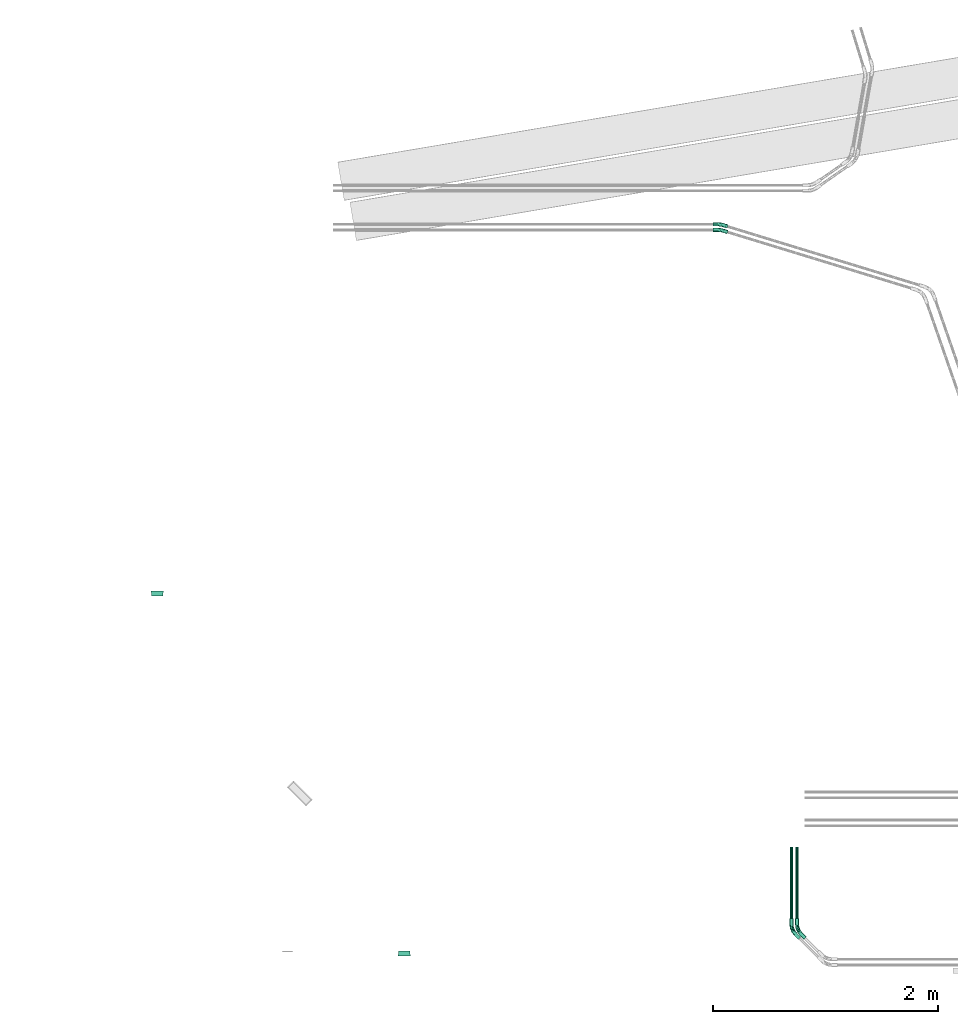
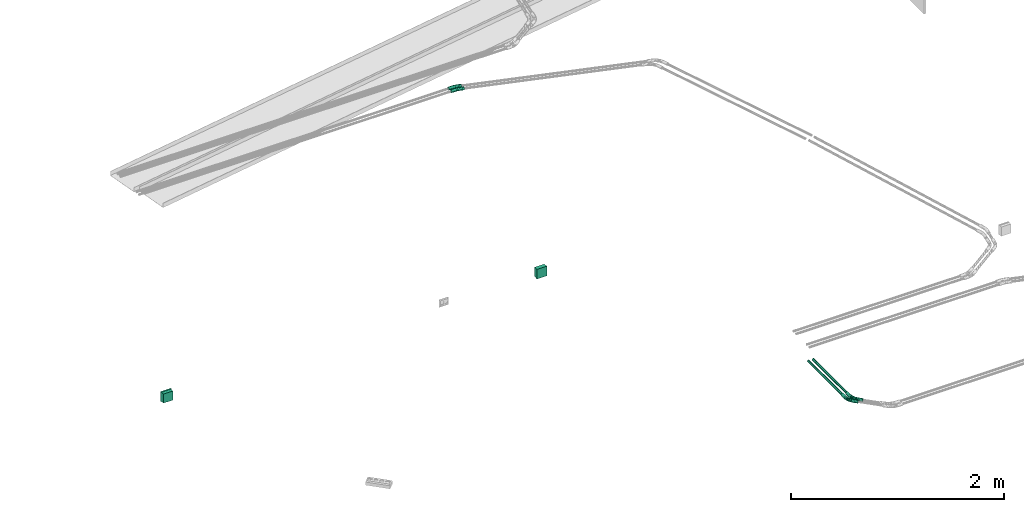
# One storey, part 10 of 22: 6 flow fittings, 2 flow segments.
"""IFC2X3 building model written with IfcOpenShell, lengths in millimetres."""

from ifc_helpers import new_model, entity, si_unit, converted_unit, derived_unit, direction, frame, origin_with_axes, origin_2d_with_axis, place, context, subcontext, project, spatial, hollow_circle, extrude, open_shell, surface_model, source, transform, mapped, type_object, element, save


model = new_model("IFC2X3")

# Units and contexts
model_context = context("Model", 3, precision=0.01, world=frame((0.0, 4.29681676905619e-09, 0.0)), true_north=direction((4.01073788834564e-13, 1.0)))
plan_context = context("Plan", 3, precision=0.01, world=frame((0.0, 4.29681676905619e-09, 0.0)), true_north=direction((4.01073788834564e-13, 1.0)))
body_context = subcontext(model_context, "Body", "Model", "MODEL_VIEW")
ifc_project = project(units=[converted_unit("PLANEANGLEUNIT", "DEGREE", entity("IfcPositiveLengthMeasure", 0.0174532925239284), si_unit("PLANEANGLEUNIT", "RADIAN"), dimensions=[0, 0, 0, 0, 0, 0, 0]), si_unit("AREAUNIT", "SQUARE_METRE"), si_unit("LENGTHUNIT", "METRE", prefix="MILLI"), si_unit("MASSUNIT", "GRAM", prefix="KILO"), si_unit("POWERUNIT", "WATT"), si_unit("PRESSUREUNIT", "PASCAL", prefix="KILO"), si_unit("FORCEUNIT", "NEWTON", prefix="KILO"), si_unit("ELECTRICVOLTAGEUNIT", "VOLT"), si_unit("ELECTRICCURRENTUNIT", "AMPERE"), si_unit("THERMODYNAMICTEMPERATUREUNIT", "DEGREE_CELSIUS"), si_unit("TIMEUNIT", "SECOND"), si_unit("VOLUMEUNIT", "CUBIC_METRE"), derived_unit("LINEARVELOCITYUNIT", [(si_unit("LENGTHUNIT", "METRE"), 1), (si_unit("TIMEUNIT", "SECOND"), -1)]), derived_unit("VOLUMETRICFLOWRATEUNIT", [(si_unit("VOLUMEUNIT", "CUBIC_METRE"), 1), (si_unit("TIMEUNIT", "SECOND"), -1)]), derived_unit("THERMALTRANSMITTANCEUNIT", [(si_unit("POWERUNIT", "WATT"), 1), (si_unit("THERMODYNAMICTEMPERATUREUNIT", "KELVIN"), -1), (si_unit("AREAUNIT", "SQUARE_METRE"), -1)]), derived_unit("SOUNDPRESSUREUNIT", [(si_unit("PRESSUREUNIT", "PASCAL"), 1)])], contexts=[model_context, plan_context])

# Site, building, storey
site_placement = place(None, frame((0.0, -4.29681676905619e-09, 0.0), z_axis=(0.0, 0.0, 1.0), x_axis=(1.0, 0.0, 0.0)))
site = spatial("IfcSite", under=ifc_project, at=site_placement, Name="ENGM", CompositionType="ELEMENT")
building_placement = place(site_placement, frame((0.0, 4.29681676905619e-09, 0.0), z_axis=(0.0, 0.0, 1.0), x_axis=(1.0, 0.0, 0.0)))
building = spatial("IfcBuilding", under=site, at=building_placement, Name="TI", CompositionType="ELEMENT")
storey_placement = place(building_placement, frame((0.0, 0.0, 210900.0), z_axis=(0.0, 0.0, 1.0), x_axis=(1.0, 0.0, 0.0)))
storey = spatial("IfcBuildingStorey", under=building, at=storey_placement, Name="Nivå F", CompositionType="ELEMENT", Elevation=210900.0)

# Flow fittings
cable_carrier_fitting_type = type_object("IfcCableCarrierFittingType", Name="Trekkerør, glatt bend", PredefinedType="BEND")
shared_shape_1 = source(origin_with_axes(), body_context, "Body", "SurfaceModel", [
    surface_model("IfcShellBasedSurfaceModel", [(-101.90646, 8.46055, -14.6541), (-101.90646, 4.3795, -16.34452), (-101.90646, 0.0, -16.92109), (-101.90646, -4.3795, -16.34452), (-101.90646, -8.46055, -14.6541), (-101.90646, -14.6541, -8.46055), (-101.90646, 16.92109, 0.0), (-101.90646, -11.96502, -11.96502), (-101.90646, -11.96502, 11.96502), (-101.90646, 14.6541, -8.46055), (-101.90646, 11.96502, -11.96502), (-101.90646, 16.34452, -4.3795), (-101.90646, -16.34452, -4.3795), (-101.90646, -16.92109, 0.0), (-101.90646, -16.34452, 4.3795), (-101.90646, -14.6541, 8.46055), (-101.90646, 0.0, 16.92109), (-101.90646, -8.46055, 14.6541), (-101.90646, -4.3795, 16.34452), (-101.90646, 14.6541, 8.46055), (-101.90646, 8.46055, 14.6541), (-101.90646, 11.96502, 11.96502), (-101.90646, 16.34452, 4.3795), (-101.90646, 4.3795, 16.34452), (-54.58849, 16.34452, 4.3795), (-54.58849, 16.92109, 0.0), (-54.58849, 14.6541, 8.46055), (-54.58849, 8.46055, 14.6541), (-54.58849, 11.96502, 11.96502), (-54.58849, 4.3795, 16.34452), (-54.58849, 0.0, 16.92109), (-54.58849, -8.46055, 14.6541), (-54.58849, -4.3795, 16.34452), (-54.58849, -11.96502, 11.96502), (-54.58849, -16.34452, 4.3795), (-54.58849, -14.6541, 8.46055), (-54.58849, -16.92109, 0.0), (-54.58849, -16.34452, -4.3795), (-54.58849, -14.6541, -8.46055), (-54.58849, -8.46055, -14.6541), (-54.58849, -11.96502, -11.96502), (-54.58849, -4.3795, -16.34452), (-54.58849, 0.0, -16.92109), (-54.58849, 8.46055, -14.6541), (-54.58849, 4.3795, -16.34452), (-54.58849, 11.96502, -11.96502), (-54.58849, 16.34452, -4.3795), (-54.58849, 14.6541, -8.46055), (-16.09967, 11.85394, 0.0), (-13.36235, 10.76027, 3.27049), (10.9245, 1.31078, 3.47544), (22.26214, -21.90343, 16.76352), (38.59989, -38.59989, 16.92109), (41.69667, -35.50312, 16.34452), (-19.66365, 2.12805, 15.57779), (-29.58477, 8.16493, 13.36262), (-20.60685, 9.47816, 10.19127), (-29.40446, -19.36118, 3.4046), (-10.25807, -24.76518, 5.65746), (-34.07223, -17.39409, 6.62821), (-31.22977, 0.25365, 16.76352), (-3.22837, -7.79397, 16.74683), (17.47707, -29.1678, 15.66764), (32.61738, -44.5824, 14.6541), (35.50312, -41.69667, 16.34452), (5.09993, -25.84703, 13.50914), (-25.92736, -13.63005, 13.4985), (-16.62388, -19.5721, 10.43045), (-21.17216, -6.44783, 16.79403), (19.76619, -3.00218, 0.0), (-6.56017, -15.83764, 15.71089), (-32.9829, -8.26659, 15.66764), (47.06044, -30.13935, 11.96502), (48.96191, -28.23788, 8.46055), (19.50033, -6.79523, 10.18462), (-0.14544, -0.35113, 13.28643), (-24.85868, -20.8351, 0.0), (26.69306, -15.14611, 13.36262), (44.5824, -32.61738, 14.6541), (8.93562, -35.31889, 4.60583), (8.9424, -34.00903, 7.47137), (-6.07752, 7.50254, 6.29064), (25.73601, -8.11548, 6.36012), (30.13935, -47.06044, 11.96502), (10.0687, -32.56851, 10.38353), (28.23788, -48.96191, 8.46055), (-30.89964, 14.04008, 5.64535), (16.01237, -12.75836, 15.5789), (12.05401, -20.50658, 16.79305), (50.15722, -27.04257, 4.3795), (32.88314, -11.79305, 2.69799), (50.56491, -26.63487, 0.0), (2.8451, -32.31038, 0.0), (26.63487, -50.56491, 0.0), (27.04257, -50.15722, 4.3795), (-32.9829, -8.26659, -15.66764), (41.69667, -35.50312, -16.34452), (38.59989, -38.59989, -16.92109), (16.55602, -18.09298, -16.75967), (8.69552, -27.97131, -13.4985), (32.61738, -44.5824, -14.6541), (30.13935, -47.06044, -11.96502), (-21.88281, -14.67041, -13.50914), (-6.56017, -15.83764, -15.71089), (-31.29267, -18.65579, -4.60583), (-30.37125, -17.72478, -7.47137), (-10.25807, -24.76517, -5.65746), (-19.1381, 5.92521, -13.33619), (17.63726, -9.2923, -13.33594), (-1.59965, -3.86188, -15.54749), (-30.14906, -15.90977, -10.38353), (-2.08471, -25.59442, -10.43045), (10.41167, -19.53028, -16.79403), (-24.73941, -5.56629, -16.79215), (-28.92763, 11.20296, -10.21852), (-18.36618, 11.17146, -6.33871), (-19.67101, -2.27248, -16.75686), (-22.81878, 13.17372, -3.2081), (17.47707, -29.1678, -15.66764), (-30.36783, 4.42984, -15.59506), (24.60567, -18.34093, -15.59506), (35.50312, -41.69667, -16.34452), (7.10167, -34.48251, -3.4046), (27.04257, -50.15722, -4.3795), (47.06044, -30.13935, -11.96502), (44.5824, -32.61738, -14.6541), (28.23788, -48.96191, -8.46055), (11.79322, -36.39219, -6.62821), (1.03493, 2.49855, -10.11808), (28.37661, -12.53324, -10.21852), (48.96191, -28.23788, -8.46055), (20.88626, -5.08744, -6.33871), (25.45054, -6.82009, -3.2081), (2.19574, 5.30098, -3.30061), (50.15722, -27.04257, -4.3795), (68.96197, -75.15552, -16.34452), (72.05875, -72.05875, -16.92109), (60.50143, -83.61607, -4.3795), (66.07624, -78.04126, -14.6541), (61.69674, -82.42076, -8.46055), (63.5982, -80.51929, -11.96502), (75.15552, -68.96197, -16.34452), (78.04126, -66.07624, -14.6541), (80.51929, -63.5982, -11.96502), (83.61607, -60.50143, -4.3795), (82.42076, -61.69674, -8.46055), (84.02377, -60.09373, 0.0), (83.61607, -60.50143, 4.3795), (75.15552, -68.96197, 16.34452), (61.69674, -82.42076, 8.46055), (60.50143, -83.61607, 4.3795), (66.07624, -78.04126, 14.6541), (72.05875, -72.05875, 16.92109), (63.5982, -80.51929, 11.96502), (68.96197, -75.15552, 16.34452), (82.42076, -61.69674, 8.46055), (80.51929, -63.5982, 11.96502), (78.04126, -66.07624, 14.6541), (60.09373, -84.02377, 0.0)], [open_shell([[[0, 1, 2]], [[2, 3, 4]], [[2, 4, 5]], [[2, 5, 6]], [[5, 4, 7]], [[8, 6, 5]], [[0, 9, 10]], [[0, 11, 9]], [[0, 2, 11]], [[6, 11, 2]], [[5, 12, 8]], [[13, 14, 15]], [[13, 15, 8]], [[16, 6, 17]], [[6, 8, 17]], [[16, 17, 18]], [[19, 20, 21]], [[19, 22, 6]], [[20, 16, 23]], [[20, 19, 6]], [[20, 6, 16]], [[12, 13, 8]], [[24, 25, 22]], [[24, 19, 26]], [[27, 28, 20]], [[21, 28, 26]], [[29, 27, 23]], [[6, 22, 25]], [[22, 19, 24]], [[19, 21, 26]], [[21, 20, 28]], [[27, 20, 23]], [[23, 16, 29]], [[16, 30, 29]], [[31, 32, 17]], [[31, 8, 33]], [[34, 35, 14]], [[15, 35, 33]], [[36, 34, 13]], [[30, 18, 32]], [[18, 17, 32]], [[16, 18, 30]], [[17, 8, 31]], [[8, 15, 33]], [[35, 15, 14]], [[14, 13, 34]], [[37, 36, 12]], [[37, 5, 38]], [[39, 40, 4]], [[7, 40, 38]], [[41, 39, 3]], [[13, 12, 36]], [[12, 5, 37]], [[5, 7, 38]], [[7, 4, 40]], [[39, 4, 3]], [[3, 2, 41]], [[2, 42, 41]], [[43, 44, 0]], [[43, 10, 45]], [[46, 47, 11]], [[9, 47, 45]], [[25, 46, 6]], [[42, 1, 44]], [[1, 0, 44]], [[2, 1, 42]], [[0, 10, 43]], [[10, 9, 45]], [[47, 9, 11]], [[11, 6, 46]], [[48, 49, 50]], [[48, 25, 49]], [[51, 52, 53]], [[54, 27, 29]], [[27, 55, 28]], [[26, 28, 56]], [[57, 58, 59]], [[54, 60, 61]], [[29, 30, 60]], [[62, 63, 64]], [[65, 66, 67]], [[68, 30, 32]], [[69, 48, 50]], [[70, 66, 65]], [[66, 31, 33]], [[59, 58, 67]], [[32, 31, 71]], [[72, 73, 74]], [[75, 74, 56]], [[36, 76, 57]], [[77, 78, 72]], [[57, 34, 36]], [[79, 80, 58]], [[81, 74, 82]], [[68, 71, 70]], [[83, 84, 85]], [[86, 49, 24]], [[67, 33, 35]], [[53, 78, 87]], [[61, 87, 54]], [[81, 56, 74]], [[68, 70, 88]], [[73, 82, 74]], [[89, 82, 73]], [[62, 64, 88]], [[72, 74, 77]], [[68, 88, 61]], [[90, 89, 91]], [[81, 82, 50]], [[75, 56, 55]], [[83, 65, 84]], [[76, 92, 57]], [[56, 86, 26]], [[93, 79, 92]], [[87, 77, 75]], [[94, 80, 79]], [[51, 53, 87]], [[65, 62, 70]], [[30, 68, 60]], [[80, 84, 67]], [[88, 51, 61]], [[83, 63, 65]], [[64, 52, 88]], [[66, 33, 67]], [[54, 87, 75]], [[50, 82, 90]], [[71, 31, 66]], [[27, 54, 55]], [[85, 84, 80]], [[67, 84, 65]], [[28, 55, 56]], [[75, 55, 54]], [[78, 77, 87]], [[75, 77, 74]], [[85, 80, 94]], [[58, 80, 67]], [[94, 79, 93]], [[79, 58, 92]], [[29, 60, 54]], [[61, 60, 68]], [[52, 51, 88]], [[61, 51, 87]], [[49, 81, 50]], [[69, 50, 90]], [[69, 90, 91]], [[89, 90, 82]], [[81, 49, 86]], [[24, 49, 25]], [[81, 86, 56]], [[86, 24, 26]], [[32, 71, 68]], [[70, 71, 66]], [[63, 62, 65]], [[70, 62, 88]], [[35, 34, 59]], [[58, 57, 92]], [[57, 59, 34]], [[35, 59, 67]], [[41, 95, 39]], [[96, 97, 98]], [[99, 100, 101]], [[102, 95, 103]], [[36, 104, 76]], [[37, 105, 104]], [[105, 106, 104]], [[107, 108, 109]], [[110, 111, 105]], [[102, 40, 39]], [[99, 101, 111]], [[112, 103, 113]], [[114, 47, 115]], [[98, 112, 116]], [[117, 46, 25]], [[102, 99, 111]], [[47, 46, 115]], [[118, 100, 99]], [[44, 43, 119]], [[95, 41, 113]], [[114, 45, 47]], [[107, 43, 45]], [[116, 119, 109]], [[113, 116, 112]], [[120, 96, 98]], [[97, 121, 112]], [[92, 76, 122]], [[42, 116, 113]], [[122, 123, 93]], [[108, 124, 125]], [[116, 42, 44]], [[101, 126, 111]], [[99, 102, 103]], [[127, 122, 106]], [[118, 121, 100]], [[107, 114, 128]], [[119, 43, 107]], [[106, 111, 127]], [[108, 107, 128]], [[118, 103, 112]], [[125, 96, 120]], [[98, 97, 112]], [[124, 129, 130]], [[108, 120, 109]], [[113, 41, 42]], [[98, 116, 109]], [[131, 129, 128]], [[115, 131, 128]], [[91, 132, 69]], [[132, 133, 69]], [[133, 117, 48]], [[115, 117, 133]], [[48, 69, 133]], [[131, 134, 130]], [[124, 108, 129]], [[93, 92, 122]], [[40, 102, 110]], [[40, 110, 38]], [[38, 110, 105]], [[111, 110, 102]], [[45, 114, 107]], [[128, 114, 115]], [[130, 129, 131]], [[128, 129, 108]], [[38, 105, 37]], [[106, 105, 111]], [[37, 104, 36]], [[104, 106, 76]], [[44, 119, 116]], [[109, 119, 107]], [[125, 120, 108]], [[109, 120, 98]], [[133, 131, 115]], [[131, 133, 132]], [[39, 95, 102]], [[103, 95, 113]], [[121, 118, 112]], [[103, 118, 99]], [[48, 117, 25]], [[117, 115, 46]], [[132, 134, 131]], [[134, 132, 91]], [[126, 123, 127]], [[106, 122, 76]], [[122, 127, 123]], [[126, 127, 111]], [[135, 136, 137]], [[138, 135, 137]], [[137, 139, 140]], [[138, 137, 140]], [[141, 137, 136]], [[142, 143, 141]], [[144, 141, 143]], [[145, 144, 143]], [[144, 137, 141]], [[146, 147, 144]], [[148, 137, 144]], [[149, 150, 137]], [[137, 151, 149]], [[137, 152, 151]], [[153, 149, 151]], [[152, 154, 151]], [[155, 156, 147]], [[157, 147, 156]], [[157, 148, 147]], [[148, 144, 147]], [[137, 148, 152]], [[158, 137, 150]], [[147, 146, 89]], [[147, 73, 155]], [[157, 156, 78]], [[72, 156, 155]], [[148, 157, 53]], [[91, 89, 146]], [[89, 73, 147]], [[73, 72, 155]], [[72, 78, 156]], [[157, 78, 53]], [[53, 52, 148]], [[52, 152, 148]], [[151, 154, 63]], [[151, 83, 153]], [[150, 149, 94]], [[85, 149, 153]], [[158, 150, 93]], [[152, 64, 154]], [[64, 63, 154]], [[52, 64, 152]], [[63, 83, 151]], [[83, 85, 153]], [[149, 85, 94]], [[94, 93, 150]], [[137, 158, 93]], [[137, 123, 139]], [[121, 135, 138]], [[101, 138, 140]], [[140, 139, 126]], [[123, 126, 139]], [[137, 93, 123]], [[100, 138, 101]], [[121, 138, 100]], [[121, 97, 135]], [[140, 126, 101]], [[97, 136, 135]], [[142, 141, 125]], [[142, 124, 143]], [[144, 145, 134]], [[130, 145, 143]], [[146, 144, 91]], [[136, 96, 141]], [[96, 125, 141]], [[97, 96, 136]], [[125, 124, 142]], [[124, 130, 143]], [[145, 130, 134]], [[134, 91, 144]]])]),
])
for number, where, z_axis, x_axis, name in (
    (1, (598454.72961, 570114.88907, -56.7999999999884), (0.0, 0.0, 1.0), (-0.707106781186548, 0.707106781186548, 0.0), "Trekkerør, glatt bend"),
    (2, (598504.98405, 570114.63463, -56.7999999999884), (0.0, 0.0, 1.0), (-0.707106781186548, 0.707106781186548, 0.0), "Trekkerør, glatt bend"),
):
    element("IfcFlowFitting", number, at=place(storey_placement, frame(where, z_axis=z_axis, x_axis=x_axis)), inside=storey, type_object=cable_carrier_fitting_type, Name=name, context=body_context, shape_type="MappedRepresentation", body=[
        mapped(shared_shape_1, transform((0.0, 0.0, 0.0), scale=1.0)),
    ])
shared_shape_2 = source(origin_with_axes(), body_context, "Body", "SurfaceModel", [
    surface_model("IfcShellBasedSurfaceModel", [(-67.01386, 8.46055, -14.6541), (-67.01386, 4.3795, -16.34452), (-67.01386, 0.0, -16.92109), (-67.01386, 14.6541, -8.46055), (-67.01386, -8.46055, -14.6541), (-67.01386, 11.96502, -11.96502), (-67.01386, -16.92109, 0.0), (-67.01386, -16.34452, 4.3795), (-67.01386, -11.96502, -11.96502), (-67.01386, -14.6541, -8.46055), (-67.01386, -4.3795, -16.34452), (-67.01386, -16.34452, -4.3795), (-67.01386, 16.92109, 0.0), (-67.01386, 16.34452, -4.3795), (-67.01386, 16.34452, 4.3795), (-67.01386, 14.6541, 8.46055), (-67.01386, 8.46055, 14.6541), (-67.01386, 11.96502, 11.96502), (-67.01386, 0.0, 16.92109), (-67.01386, 4.3795, 16.34452), (-67.01386, -11.96502, 11.96502), (-67.01386, -8.46055, 14.6541), (-67.01386, -14.6541, 8.46055), (-67.01386, -4.3795, 16.34452), (-19.69589, -16.92109, 0.0), (-19.69589, -16.34452, 4.3795), (-19.69589, -14.6541, 8.46055), (-19.69589, -11.96502, 11.96502), (-19.69589, -8.46055, 14.6541), (-19.69589, -4.3795, 16.34452), (-19.69589, 0.0, 16.92109), (-19.69589, 4.3795, 16.34452), (-19.69589, 8.46055, 14.6541), (-19.69589, 11.96502, 11.96502), (-19.69589, 14.6541, 8.46055), (-19.69589, 16.34452, 4.3795), (-19.69589, 16.92109, 0.0), (-19.69589, 16.34452, -4.3795), (-19.69589, 14.6541, -8.46055), (-19.69589, 11.96502, -11.96502), (-19.69589, 8.46055, -14.6541), (-19.69589, 4.3795, -16.34452), (-19.69589, 0.0, -16.92109), (-19.69589, -4.3795, -16.34452), (-19.69589, -8.46055, -14.6541), (-19.69589, -11.96502, -11.96502), (-19.69589, -14.6541, -8.46055), (-19.69589, -16.34452, -4.3795), (22.33351, -5.68368, 11.96502), (21.3089, -2.33234, 14.6541), (20.11572, 1.57038, 16.34452), (18.83527, 5.75852, 16.92109), (17.55483, 9.94666, 16.34452), (23.11972, -8.25526, 8.46055), (14.55083, 19.7723, 8.46055), (15.33704, 17.20073, 11.96502), (-2.71744, 18.18281, 0.0), (14.0566, 21.38887, 4.3795), (16.36165, 13.84938, 14.6541), (2.28475, -15.28765, 0.0), (23.61395, -9.87182, 4.3795), (23.78252, -10.4232, 0.0), (13.88803, 21.94024, 0.0), (20.11572, 1.57038, -16.34452), (18.83527, 5.75852, -16.92109), (14.0566, 21.38887, -4.3795), (16.36165, 13.84938, -14.6541), (17.55483, 9.94666, -16.34452), (15.33704, 17.20073, -11.96502), (23.61395, -9.87182, -4.3795), (22.33351, -5.68368, -11.96502), (23.11972, -8.25526, -8.46055), (21.3089, -2.33234, -14.6541), (14.55083, 19.7723, -8.46055), (62.80523, 23.7811, -16.34452), (67.58391, 8.15075, -11.96502), (64.08567, 19.59296, -16.92109), (59.80123, 33.60674, -8.46055), (61.61205, 27.68382, -14.6541), (60.58744, 31.03516, -11.96502), (68.86435, 3.96261, 4.3795), (69.03292, 3.41123, 0.0), (65.36611, 15.40482, -16.34452), (66.5593, 11.50209, -14.6541), (68.86435, 3.96261, -4.3795), (68.37011, 5.57917, -8.46055), (59.30699, 35.2233, -4.3795), (60.58744, 31.03516, 11.96502), (59.13842, 35.77468, 0.0), (59.30699, 35.2233, 4.3795), (59.80123, 33.60674, 8.46055), (61.61205, 27.68382, 14.6541), (67.58391, 8.15075, 11.96502), (64.08567, 19.59296, 16.92109), (62.80523, 23.7811, 16.34452), (68.37011, 5.57917, 8.46055), (66.5593, 11.50209, 14.6541), (65.36611, 15.40482, 16.34452)], [open_shell([[[0, 1, 2]], [[3, 0, 2]], [[4, 3, 2]], [[5, 0, 3]], [[3, 6, 7]], [[8, 9, 4]], [[2, 10, 4]], [[9, 11, 4]], [[11, 3, 4]], [[3, 11, 6]], [[12, 13, 3]], [[12, 7, 14]], [[14, 7, 15]], [[16, 17, 18]], [[15, 18, 17]], [[18, 19, 16]], [[20, 21, 22]], [[15, 7, 22]], [[23, 18, 21]], [[15, 22, 21]], [[15, 21, 18]], [[3, 7, 12]], [[7, 24, 25]], [[26, 22, 25]], [[21, 27, 28]], [[26, 27, 20]], [[23, 28, 29]], [[24, 7, 6]], [[25, 22, 7]], [[26, 20, 22]], [[27, 21, 20]], [[23, 21, 28]], [[29, 18, 23]], [[29, 30, 18]], [[16, 31, 32]], [[33, 17, 32]], [[14, 34, 35]], [[33, 34, 15]], [[12, 35, 36]], [[31, 19, 30]], [[31, 16, 19]], [[30, 19, 18]], [[32, 17, 16]], [[33, 15, 17]], [[14, 15, 34]], [[35, 12, 14]], [[13, 36, 37]], [[38, 3, 37]], [[0, 39, 40]], [[38, 39, 5]], [[1, 40, 41]], [[36, 13, 12]], [[37, 3, 13]], [[38, 5, 3]], [[39, 0, 5]], [[1, 0, 40]], [[41, 2, 1]], [[41, 42, 2]], [[4, 43, 44]], [[45, 8, 44]], [[11, 46, 47]], [[45, 46, 9]], [[6, 47, 24]], [[43, 10, 42]], [[43, 4, 10]], [[42, 10, 2]], [[44, 8, 4]], [[45, 9, 8]], [[11, 9, 46]], [[47, 6, 11]], [[27, 26, 48]], [[49, 28, 27]], [[50, 29, 28]], [[51, 30, 29]], [[31, 30, 52]], [[25, 53, 26]], [[34, 33, 54]], [[32, 55, 33]], [[56, 35, 57]], [[56, 36, 35]], [[57, 35, 34]], [[58, 32, 31]], [[25, 24, 59]], [[49, 50, 28]], [[27, 48, 49]], [[50, 51, 29]], [[53, 25, 60]], [[26, 53, 48]], [[59, 61, 60]], [[54, 57, 34]], [[62, 56, 57]], [[58, 31, 52]], [[32, 58, 55]], [[54, 33, 55]], [[52, 30, 51]], [[25, 59, 60]], [[43, 42, 63]], [[42, 41, 64]], [[65, 38, 37]], [[39, 66, 40]], [[41, 40, 67]], [[38, 68, 39]], [[59, 24, 47]], [[69, 59, 47]], [[70, 45, 44]], [[47, 46, 69]], [[45, 71, 46]], [[72, 44, 43]], [[37, 36, 56]], [[56, 62, 65]], [[65, 73, 38]], [[66, 39, 68]], [[40, 66, 67]], [[73, 68, 38]], [[67, 64, 41]], [[72, 43, 63]], [[70, 44, 72]], [[46, 71, 69]], [[69, 61, 59]], [[71, 45, 70]], [[64, 63, 42]], [[37, 56, 65]], [[74, 75, 76]], [[77, 74, 78]], [[75, 74, 77]], [[77, 78, 79]], [[80, 81, 77]], [[82, 75, 83]], [[82, 76, 75]], [[75, 84, 85]], [[84, 75, 81]], [[77, 81, 75]], [[77, 86, 80]], [[87, 88, 89]], [[87, 89, 90]], [[88, 91, 92]], [[91, 88, 87]], [[93, 91, 94]], [[80, 92, 95]], [[86, 92, 80]], [[96, 93, 97]], [[93, 96, 92]], [[91, 93, 92]], [[92, 86, 88]], [[60, 81, 80]], [[95, 53, 80]], [[49, 92, 96]], [[95, 92, 48]], [[50, 96, 97]], [[81, 60, 61]], [[80, 53, 60]], [[95, 48, 53]], [[92, 49, 48]], [[50, 49, 96]], [[97, 51, 50]], [[97, 93, 51]], [[58, 94, 91]], [[87, 55, 91]], [[57, 90, 89]], [[87, 90, 54]], [[62, 89, 88]], [[94, 52, 93]], [[94, 58, 52]], [[93, 52, 51]], [[91, 55, 58]], [[87, 54, 55]], [[57, 54, 90]], [[89, 62, 57]], [[62, 88, 86]], [[77, 65, 86]], [[78, 74, 67]], [[79, 78, 68]], [[73, 77, 79]], [[77, 73, 65]], [[65, 62, 86]], [[68, 78, 66]], [[66, 78, 67]], [[74, 64, 67]], [[68, 73, 79]], [[74, 76, 64]], [[72, 82, 83]], [[75, 70, 83]], [[69, 85, 84]], [[75, 85, 71]], [[61, 84, 81]], [[82, 63, 76]], [[82, 72, 63]], [[76, 63, 64]], [[83, 70, 72]], [[75, 71, 70]], [[69, 71, 85]], [[84, 61, 69]]])]),
])
for number, where, z_axis, x_axis, name in (
    (3, (597821.57208, 576351.49851, -56.7999999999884), (0.0, 0.0, 1.0), (-0.956304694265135, 0.292371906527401, 0.0), "Trekkerør, glatt bend"),
    (4, (597821.57208, 576401.49851, -56.7999999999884), (0.0, 0.0, 1.0), (-0.956304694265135, 0.292371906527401, 0.0), "Trekkerør, glatt bend"),
):
    element("IfcFlowFitting", number, at=place(storey_placement, frame(where, z_axis=z_axis, x_axis=x_axis)), inside=storey, type_object=cable_carrier_fitting_type, Name=name, context=body_context, shape_type="MappedRepresentation", body=[
        mapped(shared_shape_2, transform((0.0, 0.0, 0.0), scale=1.0)),
    ])
junction_box_type = type_object("IfcJunctionBoxType", Name="Koblingsboks åpen", PredefinedType="NOTDEFINED")
shared_shape_3 = source(origin_with_axes(), body_context, "Body", "SurfaceModel", [
    surface_model("IfcShellBasedSurfaceModel", [(-55.0, 46.0, 55.0), (-55.0, 32.2, 55.0), (55.0, 32.2, 55.0), (55.0, 46.0, 55.0), (55.0, 46.0, -55.0), (55.0, 32.2, -55.0), (-55.0, 32.2, -55.0), (-55.0, 46.0, -55.0), (-52.0, 32.2, 52.0), (-52.0, 0.0, 52.0), (52.0, 0.0, 52.0), (52.0, 32.2, 52.0), (52.0, 32.2, -52.0), (52.0, 0.0, -52.0), (-52.0, 0.0, -52.0), (-52.0, 32.2, -52.0)], [open_shell([[[0, 1, 2]], [[2, 3, 0]], [[4, 5, 6]], [[6, 7, 4]], [[2, 1, 6]], [[6, 5, 2]], [[3, 2, 5]], [[5, 4, 3]], [[0, 3, 4]], [[4, 7, 0]], [[1, 0, 7]], [[7, 6, 1]], [[8, 9, 10]], [[10, 11, 8]], [[12, 13, 14]], [[14, 15, 12]], [[10, 9, 14]], [[14, 13, 10]], [[11, 10, 13]], [[13, 12, 11]], [[8, 11, 12]], [[12, 15, 8]], [[9, 8, 15]], [[15, 14, 9]]])]),
])
for number, where, z_axis, x_axis in (
    (5, (592807.01952, 573089.95345, 150.0), (0.0, 0.0, 1.0), (1.0, 0.0, 0.0)),
    (6, (595007.24049, 569930.0, 2750.0), (0.0, 0.0, 1.0), (-1.0, 0.0, 0.0)),
):
    element("IfcFlowFitting", number, at=place(storey_placement, frame(where, z_axis=z_axis, x_axis=x_axis)), inside=storey, type_object=junction_box_type, Name="Koblingsboks åpen", context=body_context, shape_type="MappedRepresentation", body=[
        mapped(shared_shape_3, transform((0.0, 0.0, 0.0), scale=1.0)),
    ])

# Flow segments
cable_carrier_segment_type = type_object("IfcCableCarrierSegmentType", Name="Trekkerør, korrugert", PredefinedType="CONDUITSEGMENT")
shared_shape_4 = source(origin_with_axes(), body_context, "Body", "SweptSolid", [
    extrude(hollow_circle(Radius=12.5, WallThickness=2.0, at=origin_2d_with_axis()), frame((0.0, 0.0, 0.0), z_axis=(1.0, 0.0, 0.0), x_axis=(0.0, 1.0, 0.0)), (0.0, 0.0, 1.0), 638.1),
])
for number, where, z_axis, x_axis in (
    (7, (598454.72961, 570216.79554, -56.7999999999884), (0.0, 0.0, 1.0), (0.0, 1.0, 0.0)),
    (8, (598504.98405, 570216.5411, -56.7999999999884), (0.0, 0.0, 1.0), (0.0, 1.0, 0.0)),
):
    element("IfcFlowSegment", number, at=place(storey_placement, frame(where, z_axis=z_axis, x_axis=x_axis)), inside=storey, type_object=cable_carrier_segment_type, Name="Trekkerør, korrugert", context=body_context, shape_type="MappedRepresentation", body=[
        mapped(shared_shape_4, transform((0.0, 0.0, 0.0), scale=1.0)),
    ])

save(model, "model.ifc")
